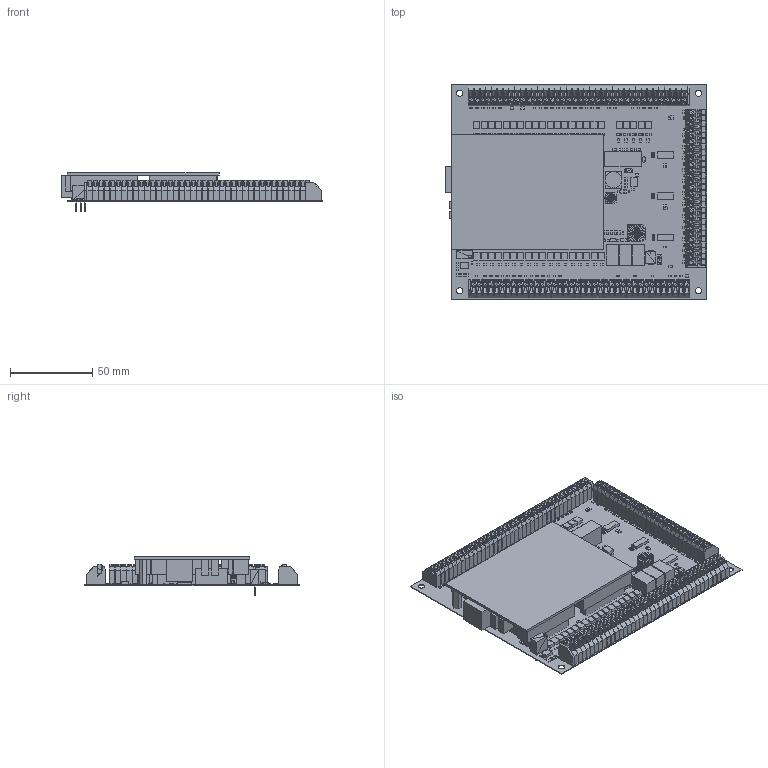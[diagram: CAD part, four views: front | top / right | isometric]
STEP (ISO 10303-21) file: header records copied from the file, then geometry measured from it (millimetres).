
FILE_DESCRIPTION(('Open CASCADE Model'),'2;1');
FILE_NAME('Open CASCADE Shape Model','2019-08-28T10:37:56',('Author'),( 'Open CASCADE'),'Open CASCADE STEP processor 6.8','Open CASCADE 6.8' ,'Unknown');
FILE_SCHEMA(('AUTOMOTIVE_DESIGN { 1 0 10303 214 1 1 1 1 }'));
Products named in the file (1): PCB
Bounding box: 158.72 x 130 x 23.54 mm (x, y, z)
Volume: 96711.4 mm3; surface area: 135329.2 mm2
Topology: 745 solids, 3653 shells, 19443 faces, 49146 edges, 34089 vertices
Faces by surface type: plane 18535, bspline 471, cylinder 437
Full cylindrical faces by diameter (mm): 3.8 x4, 10 x1
Entity records: 588048 total; most frequent: CARTESIAN_POINT 122034, ORIENTED_EDGE 86182, DIRECTION 79861, EDGE_CURVE 49134, LINE 38495, VECTOR 38495, VERTEX_POINT 34089, AXIS2_PLACEMENT_3D 20683
